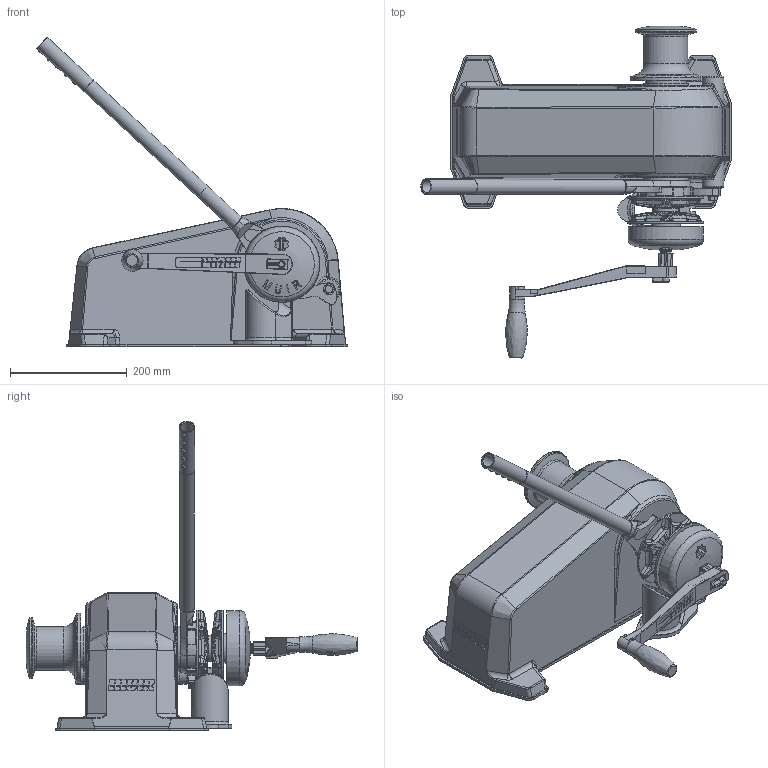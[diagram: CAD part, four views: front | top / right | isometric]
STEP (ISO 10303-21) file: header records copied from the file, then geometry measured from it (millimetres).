
FILE_DESCRIPTION(/* description */ (''),/* implementation_level */ '2;1');
FILE_NAME(/* name */ 'HR2500 - 8-10-12-13mm.stp',/* time_stamp */ '2025-11-28T10:17:48+11:00',/* author */ ('markus.mendgen'),/* organization */ (''),/* preprocessor_version */ 'ST-DEVELOPER v20',/* originating_system */ 'Autodesk Inventor 2025',/* authorisation */ '');
FILE_SCHEMA (('AUTOMOTIVE_DESIGN { 1 0 10303 214 3 1 1 }'));
Products named in the file (1): U001044_Simplify
Bounding box: 531.56 x 568.65 x 530.48 mm (x, y, z)
Volume: 15703356.3 mm3; surface area: 773225.2 mm2
Topology: 7 solids, 7 shells, 2211 faces, 5805 edges, 3623 vertices
Faces by surface type: cylinder 810, plane 623, bspline 449, torus 152, cone 102, sphere 75
Full cylindrical faces by diameter (mm): 2 x3, 7.938 x1, 10 x1, 10.2 x1, 11 x1, 12.7 x1, 18.644 x2, 21.4 x1, 24.95 x1, 25.1 x1, 25.4 x1, 27 x1, 35 x1, 36.05 x1, 36.2 x1, 36.6 x1, 37 x3, 44.2 x1, 48.05 x1, 48.4 x1, 50.8 x1, 69.82 x1, 70 x1, 70.6 x1, 75 x1, 76 x1, 76.2 x1, 96.5 x1, 104 x1, 120 x1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
Entity records: 90613 total; most frequent: CARTESIAN_POINT 38229, ORIENTED_EDGE 11490, DIRECTION 10424, EDGE_CURVE 5745, AXIS2_PLACEMENT_3D 4062, VERTEX_POINT 3623, EDGE_LOOP 2303, LINE 2300
